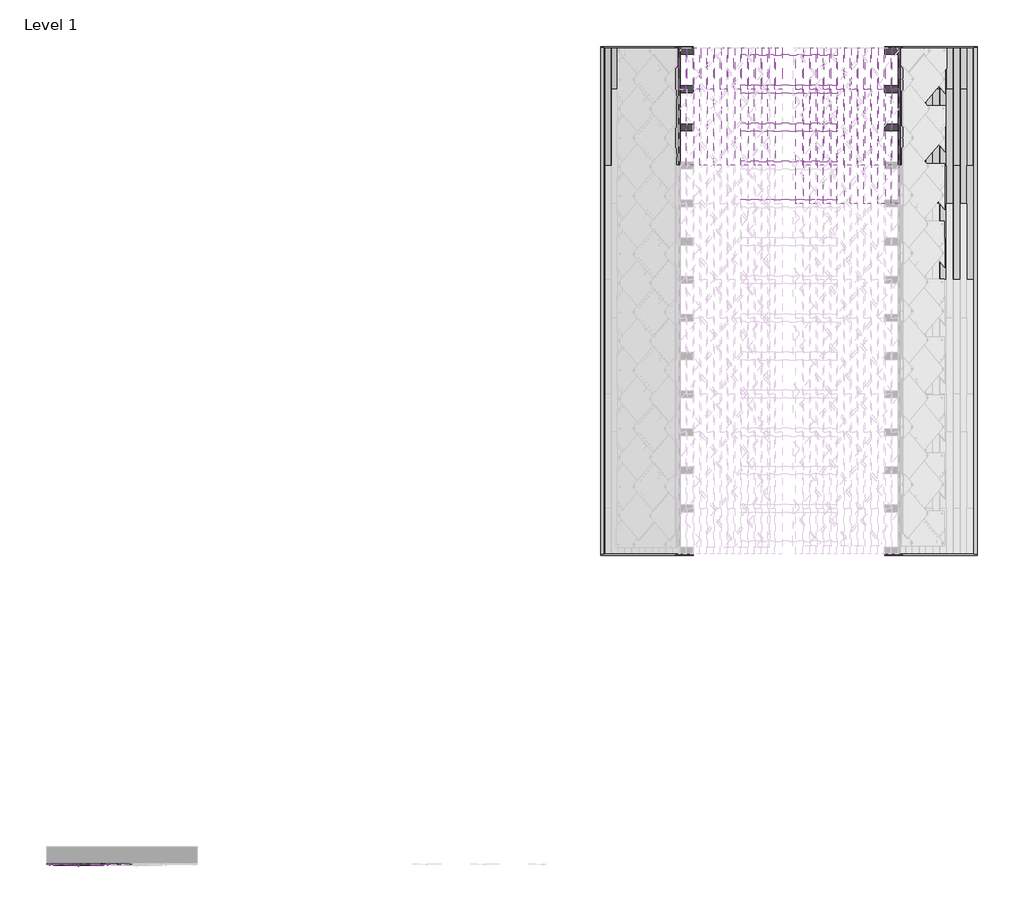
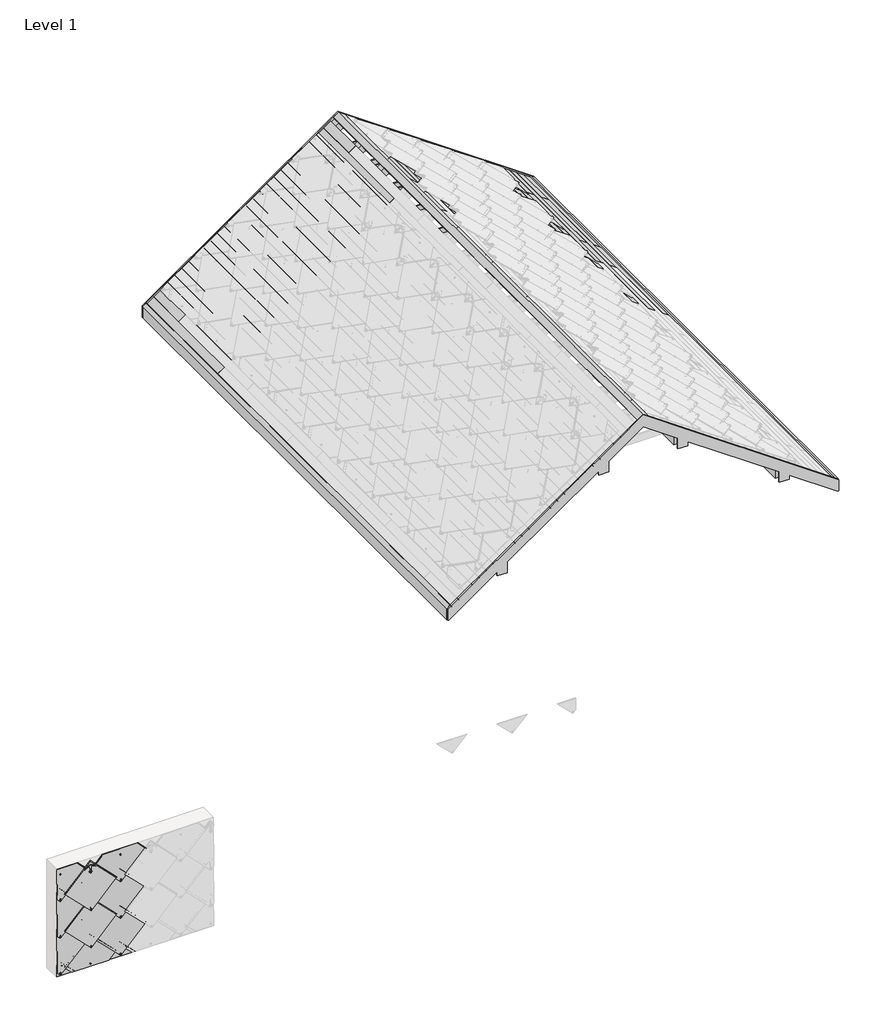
# One storey, part 3 of 6: 92 beams, 11 proxies.
"""IFC4 building model written with IfcOpenShell, lengths in millimetres."""

from ifc_helpers import new_model, si_unit, origin, place, context, project, spatial, transform, mapped, element, save
from components import structural_framing_1_structural_framing_1_4f4e03de, structural_framing_104_structural_framing_15_200a1adf, structural_framing_105_structural_framing_15_bbb8b2a2, structural_framing_150_structural_framing_15_f334a7cf, structural_framing_151_structural_framing_15_911aee75, structural_framing_152_structural_framing_15_fae30983, structural_framing_154_structural_framing_15_ddedf780, structural_framing_156_structural_framing_15_8572bb24, structural_framing_164_structural_framing_15_c8a2bcaa, structural_framing_155_structural_framing_15_fbad98d9, structural_framing_290_structural_framing_15_fb813978, structural_framing_291_structural_framing_15_41421fa0, structural_framing_293_structural_framing_15_7859e044, structural_framing_294_structural_framing_15_d6bc8154, structural_framing_295_structural_framing_295_6c3cb5e9, structural_framing_296_structural_framing_296_04115515, structural_framing_298_structural_framing_296_1c13a3da, structural_framing_321_structural_framing_321_04959c51, structural_framing_323_structural_framing_323_983c3ce1, structural_framing_324_structural_framing_323_6074106b, generic_models_2e27a9fd, corner_bottom_small_left_black_798ab3c3, corner_top_big_left_black_ba74b52e, roofing_panels_sunstyle_tile_non_pv_shingle_non_pv_shingle_be952c39, roofing_panels_sunstyle_tile_shingle_bottom_shingle_bottom_4eb983e8, roofing_panels_sunstyle_tile_shingle_bottom_small_shingle_761d3557, roofing_panels_sunstyle_tile_shingle_left_shingle_left_8a958c8d, roofing_panels_sunstyle_tile_shingle_top_shingle_top_black_4c6098d4

model = new_model("IFC4")

# Units and contexts
model_context = context("Model", 3, world=origin())
ifc_project = project(units=[si_unit("LENGTHUNIT", "METRE", prefix="MILLI")], contexts=[model_context])

# Site, building, storey
site = spatial("IfcSite", under=ifc_project)
building = spatial("IfcBuilding", under=site)
storey = spatial("IfcBuildingStorey", under=building, Name="Level 1", Elevation=0.0)

# Beams
placement = place(None, origin())
structural_framing_1_structural_framing_1_shape = structural_framing_1_structural_framing_1_4f4e03de(model_context)
element("IfcBeam", 1, ObjectType="Structural Framing 1 : Structural Framing 1", at=placement, inside=storey, context=model_context, shape_type="MappedRepresentation", body=[
    mapped(structural_framing_1_structural_framing_1_shape, transform((0.0, 0.0, 0.0), x_axis=(1.0, 0.0, 0.0), y_axis=(0.0, 1.0, 0.0), z_axis=(0.0, 0.0, 1.0))),
])
structural_framing_104_structural_framing_15_shape = structural_framing_104_structural_framing_15_200a1adf(model_context)
element("IfcBeam", 2, ObjectType="Structural Framing 104 : Structural Framing 15", at=placement, inside=storey, context=model_context, shape_type="MappedRepresentation", body=[
    mapped(structural_framing_104_structural_framing_15_shape, transform((-2427.8516115, 0.0, -1700.0), x_axis=(1.0, 0.0, 0.0), y_axis=(0.0, 1.0, 0.0), z_axis=(0.0, 0.0, 1.0))),
])
structural_framing_105_structural_framing_15_shape = structural_framing_105_structural_framing_15_bbb8b2a2(model_context)
element("IfcBeam", 3, ObjectType="Structural Framing 105 : Structural Framing 15", at=placement, inside=storey, context=model_context, shape_type="MappedRepresentation", body=[
    mapped(structural_framing_105_structural_framing_15_shape, transform((-2570.6664121, 0.0, -1800.0), x_axis=(1.0, 0.0, 0.0), y_axis=(0.0, 1.0, 0.0), z_axis=(0.0, 0.0, 1.0))),
])
element("IfcBeam", 4, ObjectType="Structural Framing 114 : Structural Framing 15", at=placement, inside=storey, context=model_context, shape_type="MappedRepresentation", body=[
    mapped(structural_framing_104_structural_framing_15_shape, transform((-2713.4812128, 0.0, -1900.0), x_axis=(1.0, 0.0, 0.0), y_axis=(0.0, 1.0, 0.0), z_axis=(0.0, 0.0, 1.0))),
])
element("IfcBeam", 5, ObjectType="Structural Framing 115 : Structural Framing 15", at=placement, inside=storey, context=model_context, shape_type="MappedRepresentation", body=[
    mapped(structural_framing_105_structural_framing_15_shape, transform((-2856.2960135, 0.0, -2000.0), x_axis=(1.0, 0.0, 0.0), y_axis=(0.0, 1.0, 0.0), z_axis=(0.0, 0.0, 1.0))),
])
element("IfcBeam", 6, ObjectType="Structural Framing 124 : Structural Framing 15", at=placement, inside=storey, context=model_context, shape_type="MappedRepresentation", body=[
    mapped(structural_framing_104_structural_framing_15_shape, transform((-2999.1108142, 0.0, -2100.0), x_axis=(1.0, 0.0, 0.0), y_axis=(0.0, 1.0, 0.0), z_axis=(0.0, 0.0, 1.0))),
])
element("IfcBeam", 7, ObjectType="Structural Framing 125 : Structural Framing 15", at=placement, inside=storey, context=model_context, shape_type="MappedRepresentation", body=[
    mapped(structural_framing_105_structural_framing_15_shape, transform((-3141.9256148, 0.0, -2200.0), x_axis=(1.0, 0.0, 0.0), y_axis=(0.0, 1.0, 0.0), z_axis=(0.0, 0.0, 1.0))),
])
element("IfcBeam", 8, ObjectType="Structural Framing 134 : Structural Framing 15", at=placement, inside=storey, context=model_context, shape_type="MappedRepresentation", body=[
    mapped(structural_framing_104_structural_framing_15_shape, transform((-3284.7404155, 0.0, -2300.0), x_axis=(1.0, 0.0, 0.0), y_axis=(0.0, 1.0, 0.0), z_axis=(0.0, 0.0, 1.0))),
])
element("IfcBeam", 9, ObjectType="Structural Framing 135 : Structural Framing 15", at=placement, inside=storey, context=model_context, shape_type="MappedRepresentation", body=[
    mapped(structural_framing_105_structural_framing_15_shape, transform((-3427.5552162, 0.0, -2400.0), x_axis=(1.0, 0.0, 0.0), y_axis=(0.0, 1.0, 0.0), z_axis=(0.0, 0.0, 1.0))),
])
element("IfcBeam", 10, ObjectType="Structural Framing 144 : Structural Framing 15", at=placement, inside=storey, context=model_context, shape_type="MappedRepresentation", body=[
    mapped(structural_framing_104_structural_framing_15_shape, transform((-3570.3700169, 0.0, -2500.0), x_axis=(1.0, 0.0, 0.0), y_axis=(0.0, 1.0, 0.0), z_axis=(0.0, 0.0, 1.0))),
])
element("IfcBeam", 11, ObjectType="Structural Framing 145 : Structural Framing 15", at=placement, inside=storey, context=model_context, shape_type="MappedRepresentation", body=[
    mapped(structural_framing_105_structural_framing_15_shape, transform((-3713.1848175, 0.0, -2600.0), x_axis=(1.0, 0.0, 0.0), y_axis=(0.0, 1.0, 0.0), z_axis=(0.0, 0.0, 1.0))),
])
structural_framing_150_structural_framing_15_shape = structural_framing_150_structural_framing_15_f334a7cf(model_context)
element("IfcBeam", 12, ObjectType="Structural Framing 150 : Structural Framing 15", at=placement, inside=storey, context=model_context, shape_type="MappedRepresentation", body=[
    mapped(structural_framing_150_structural_framing_15_shape, transform((0.0, 0.0, 0.0), x_axis=(1.0, 0.0, 0.0), y_axis=(0.0, 1.0, 0.0), z_axis=(0.0, 0.0, 1.0))),
])
structural_framing_151_structural_framing_15_shape = structural_framing_151_structural_framing_15_911aee75(model_context)
element("IfcBeam", 13, ObjectType="Structural Framing 151 : Structural Framing 15", at=placement, inside=storey, context=model_context, shape_type="MappedRepresentation", body=[
    mapped(structural_framing_151_structural_framing_15_shape, transform((0.0, 2367.5, 0.0), x_axis=(1.0, 0.0, 0.0), y_axis=(0.0, 1.0, 0.0), z_axis=(0.0, 0.0, 1.0))),
])
structural_framing_152_structural_framing_15_shape = structural_framing_152_structural_framing_15_fae30983(model_context)
element("IfcBeam", 14, ObjectType="Structural Framing 152 : Structural Framing 15", at=placement, inside=storey, context=model_context, shape_type="MappedRepresentation", body=[
    mapped(structural_framing_152_structural_framing_15_shape, transform((0.0, 4837.5, 0.0), x_axis=(1.0, 0.0, 0.0), y_axis=(0.0, 1.0, 0.0), z_axis=(0.0, 0.0, 1.0))),
])
element("IfcBeam", 15, ObjectType="Structural Framing 153 : Structural Framing 15", at=placement, inside=storey, context=model_context, shape_type="MappedRepresentation", body=[
    mapped(structural_framing_152_structural_framing_15_shape, transform((0.0, 7237.5, 0.0), x_axis=(1.0, 0.0, 0.0), y_axis=(0.0, 1.0, 0.0), z_axis=(0.0, 0.0, 1.0))),
])
structural_framing_154_structural_framing_15_shape = structural_framing_154_structural_framing_15_ddedf780(model_context)
element("IfcBeam", 16, ObjectType="Structural Framing 154 : Structural Framing 15", at=placement, inside=storey, context=model_context, shape_type="MappedRepresentation", body=[
    mapped(structural_framing_154_structural_framing_15_shape, transform((0.0, 9637.5, 0.0), x_axis=(1.0, 0.0, 0.0), y_axis=(0.0, 1.0, 0.0), z_axis=(0.0, 0.0, 1.0))),
])
structural_framing_156_structural_framing_15_shape = structural_framing_156_structural_framing_15_8572bb24(model_context)
element("IfcBeam", 17, ObjectType="Structural Framing 160 : Structural Framing 15", at=placement, inside=storey, context=model_context, shape_type="MappedRepresentation", body=[
    mapped(structural_framing_156_structural_framing_15_shape, transform((142.8148007, -870.0, -100.0), x_axis=(1.0, 0.0, 0.0), y_axis=(0.0, 1.0, 0.0), z_axis=(0.0, 0.0, 1.0))),
])
structural_framing_164_structural_framing_15_shape = structural_framing_164_structural_framing_15_c8a2bcaa(model_context)
element("IfcBeam", 18, ObjectType="Structural Framing 164 : Structural Framing 15", at=placement, inside=storey, context=model_context, shape_type="MappedRepresentation", body=[
    mapped(structural_framing_164_structural_framing_15_shape, transform((142.8148007, 0.0, -100.0), x_axis=(1.0, 0.0, 0.0), y_axis=(0.0, 1.0, 0.0), z_axis=(0.0, 0.0, 1.0))),
])
structural_framing_155_structural_framing_15_shape = structural_framing_155_structural_framing_15_fbad98d9(model_context)
element("IfcBeam", 19, ObjectType="Structural Framing 165 : Structural Framing 15", at=placement, inside=storey, context=model_context, shape_type="MappedRepresentation", body=[
    mapped(structural_framing_155_structural_framing_15_shape, transform((285.6296013, 0.0, -200.0), x_axis=(1.0, 0.0, 0.0), y_axis=(0.0, 1.0, 0.0), z_axis=(0.0, 0.0, 1.0))),
])
element("IfcBeam", 20, ObjectType="Structural Framing 170 : Structural Framing 15", at=placement, inside=storey, context=model_context, shape_type="MappedRepresentation", body=[
    mapped(structural_framing_156_structural_framing_15_shape, transform((428.444402, -870.0, -300.0), x_axis=(1.0, 0.0, 0.0), y_axis=(0.0, 1.0, 0.0), z_axis=(0.0, 0.0, 1.0))),
])
element("IfcBeam", 21, ObjectType="Structural Framing 174 : Structural Framing 15", at=placement, inside=storey, context=model_context, shape_type="MappedRepresentation", body=[
    mapped(structural_framing_164_structural_framing_15_shape, transform((428.444402, 0.0, -300.0), x_axis=(1.0, 0.0, 0.0), y_axis=(0.0, 1.0, 0.0), z_axis=(0.0, 0.0, 1.0))),
])
element("IfcBeam", 22, ObjectType="Structural Framing 175 : Structural Framing 15", at=placement, inside=storey, context=model_context, shape_type="MappedRepresentation", body=[
    mapped(structural_framing_155_structural_framing_15_shape, transform((571.2592027, 0.0, -400.0), x_axis=(1.0, 0.0, 0.0), y_axis=(0.0, 1.0, 0.0), z_axis=(0.0, 0.0, 1.0))),
])
element("IfcBeam", 23, ObjectType="Structural Framing 180 : Structural Framing 15", at=placement, inside=storey, context=model_context, shape_type="MappedRepresentation", body=[
    mapped(structural_framing_156_structural_framing_15_shape, transform((714.0740034, -870.0, -500.0), x_axis=(1.0, 0.0, 0.0), y_axis=(0.0, 1.0, 0.0), z_axis=(0.0, 0.0, 1.0))),
])
element("IfcBeam", 24, ObjectType="Structural Framing 184 : Structural Framing 15", at=placement, inside=storey, context=model_context, shape_type="MappedRepresentation", body=[
    mapped(structural_framing_164_structural_framing_15_shape, transform((714.0740034, 0.0, -500.0), x_axis=(1.0, 0.0, 0.0), y_axis=(0.0, 1.0, 0.0), z_axis=(0.0, 0.0, 1.0))),
])
element("IfcBeam", 25, ObjectType="Structural Framing 185 : Structural Framing 15", at=placement, inside=storey, context=model_context, shape_type="MappedRepresentation", body=[
    mapped(structural_framing_155_structural_framing_15_shape, transform((856.888804, 0.0, -600.0), x_axis=(1.0, 0.0, 0.0), y_axis=(0.0, 1.0, 0.0), z_axis=(0.0, 0.0, 1.0))),
])
element("IfcBeam", 26, ObjectType="Structural Framing 190 : Structural Framing 15", at=placement, inside=storey, context=model_context, shape_type="MappedRepresentation", body=[
    mapped(structural_framing_156_structural_framing_15_shape, transform((999.7036047, -870.0, -700.0), x_axis=(1.0, 0.0, 0.0), y_axis=(0.0, 1.0, 0.0), z_axis=(0.0, 0.0, 1.0))),
])
element("IfcBeam", 27, ObjectType="Structural Framing 194 : Structural Framing 15", at=placement, inside=storey, context=model_context, shape_type="MappedRepresentation", body=[
    mapped(structural_framing_164_structural_framing_15_shape, transform((999.7036047, 0.0, -700.0), x_axis=(1.0, 0.0, 0.0), y_axis=(0.0, 1.0, 0.0), z_axis=(0.0, 0.0, 1.0))),
])
element("IfcBeam", 28, ObjectType="Structural Framing 195 : Structural Framing 15", at=placement, inside=storey, context=model_context, shape_type="MappedRepresentation", body=[
    mapped(structural_framing_155_structural_framing_15_shape, transform((1142.5184054, 0.0, -800.0), x_axis=(1.0, 0.0, 0.0), y_axis=(0.0, 1.0, 0.0), z_axis=(0.0, 0.0, 1.0))),
])
element("IfcBeam", 29, ObjectType="Structural Framing 2 : Structural Framing 1", at=placement, inside=storey, context=model_context, shape_type="MappedRepresentation", body=[
    mapped(structural_framing_1_structural_framing_1_shape, transform((0.0, -800.0, 0.0), x_axis=(1.0, 0.0, 0.0), y_axis=(0.0, 1.0, 0.0), z_axis=(0.0, 0.0, 1.0))),
])
element("IfcBeam", 30, ObjectType="Structural Framing 200 : Structural Framing 15", at=placement, inside=storey, context=model_context, shape_type="MappedRepresentation", body=[
    mapped(structural_framing_156_structural_framing_15_shape, transform((1285.3332061, -870.0, -900.0), x_axis=(1.0, 0.0, 0.0), y_axis=(0.0, 1.0, 0.0), z_axis=(0.0, 0.0, 1.0))),
])
element("IfcBeam", 31, ObjectType="Structural Framing 204 : Structural Framing 15", at=placement, inside=storey, context=model_context, shape_type="MappedRepresentation", body=[
    mapped(structural_framing_164_structural_framing_15_shape, transform((1285.3332061, 0.0, -900.0), x_axis=(1.0, 0.0, 0.0), y_axis=(0.0, 1.0, 0.0), z_axis=(0.0, 0.0, 1.0))),
])
element("IfcBeam", 32, ObjectType="Structural Framing 205 : Structural Framing 15", at=placement, inside=storey, context=model_context, shape_type="MappedRepresentation", body=[
    mapped(structural_framing_155_structural_framing_15_shape, transform((1428.1480067, 0.0, -1000.0), x_axis=(1.0, 0.0, 0.0), y_axis=(0.0, 1.0, 0.0), z_axis=(0.0, 0.0, 1.0))),
])
element("IfcBeam", 33, ObjectType="Structural Framing 210 : Structural Framing 15", at=placement, inside=storey, context=model_context, shape_type="MappedRepresentation", body=[
    mapped(structural_framing_156_structural_framing_15_shape, transform((1570.9628074, -870.0, -1100.0), x_axis=(1.0, 0.0, 0.0), y_axis=(0.0, 1.0, 0.0), z_axis=(0.0, 0.0, 1.0))),
])
element("IfcBeam", 34, ObjectType="Structural Framing 214 : Structural Framing 15", at=placement, inside=storey, context=model_context, shape_type="MappedRepresentation", body=[
    mapped(structural_framing_164_structural_framing_15_shape, transform((1570.9628074, 0.0, -1100.0), x_axis=(1.0, 0.0, 0.0), y_axis=(0.0, 1.0, 0.0), z_axis=(0.0, 0.0, 1.0))),
])
element("IfcBeam", 35, ObjectType="Structural Framing 215 : Structural Framing 15", at=placement, inside=storey, context=model_context, shape_type="MappedRepresentation", body=[
    mapped(structural_framing_155_structural_framing_15_shape, transform((1713.7776081, 0.0, -1200.0), x_axis=(1.0, 0.0, 0.0), y_axis=(0.0, 1.0, 0.0), z_axis=(0.0, 0.0, 1.0))),
])
element("IfcBeam", 36, ObjectType="Structural Framing 220 : Structural Framing 15", at=placement, inside=storey, context=model_context, shape_type="MappedRepresentation", body=[
    mapped(structural_framing_156_structural_framing_15_shape, transform((1856.5924088, -870.0, -1300.0), x_axis=(1.0, 0.0, 0.0), y_axis=(0.0, 1.0, 0.0), z_axis=(0.0, 0.0, 1.0))),
])
element("IfcBeam", 37, ObjectType="Structural Framing 224 : Structural Framing 15", at=placement, inside=storey, context=model_context, shape_type="MappedRepresentation", body=[
    mapped(structural_framing_164_structural_framing_15_shape, transform((1856.5924088, 0.0, -1300.0), x_axis=(1.0, 0.0, 0.0), y_axis=(0.0, 1.0, 0.0), z_axis=(0.0, 0.0, 1.0))),
])
element("IfcBeam", 38, ObjectType="Structural Framing 225 : Structural Framing 15", at=placement, inside=storey, context=model_context, shape_type="MappedRepresentation", body=[
    mapped(structural_framing_155_structural_framing_15_shape, transform((1999.4072094, 0.0, -1400.0), x_axis=(1.0, 0.0, 0.0), y_axis=(0.0, 1.0, 0.0), z_axis=(0.0, 0.0, 1.0))),
])
element("IfcBeam", 39, ObjectType="Structural Framing 230 : Structural Framing 15", at=placement, inside=storey, context=model_context, shape_type="MappedRepresentation", body=[
    mapped(structural_framing_156_structural_framing_15_shape, transform((2142.2220101, -870.0, -1500.0), x_axis=(1.0, 0.0, 0.0), y_axis=(0.0, 1.0, 0.0), z_axis=(0.0, 0.0, 1.0))),
])
element("IfcBeam", 40, ObjectType="Structural Framing 234 : Structural Framing 15", at=placement, inside=storey, context=model_context, shape_type="MappedRepresentation", body=[
    mapped(structural_framing_164_structural_framing_15_shape, transform((2142.2220101, 0.0, -1500.0), x_axis=(1.0, 0.0, 0.0), y_axis=(0.0, 1.0, 0.0), z_axis=(0.0, 0.0, 1.0))),
])
element("IfcBeam", 41, ObjectType="Structural Framing 235 : Structural Framing 15", at=placement, inside=storey, context=model_context, shape_type="MappedRepresentation", body=[
    mapped(structural_framing_155_structural_framing_15_shape, transform((2285.0368108, 0.0, -1600.0), x_axis=(1.0, 0.0, 0.0), y_axis=(0.0, 1.0, 0.0), z_axis=(0.0, 0.0, 1.0))),
])
element("IfcBeam", 42, ObjectType="Structural Framing 24 : Structural Framing 15", at=placement, inside=storey, context=model_context, shape_type="MappedRepresentation", body=[
    mapped(structural_framing_104_structural_framing_15_shape, transform((-142.8148007, 0.0, -100.0), x_axis=(1.0, 0.0, 0.0), y_axis=(0.0, 1.0, 0.0), z_axis=(0.0, 0.0, 1.0))),
])
element("IfcBeam", 43, ObjectType="Structural Framing 240 : Structural Framing 15", at=placement, inside=storey, context=model_context, shape_type="MappedRepresentation", body=[
    mapped(structural_framing_156_structural_framing_15_shape, transform((2427.8516115, -870.0, -1700.0), x_axis=(1.0, 0.0, 0.0), y_axis=(0.0, 1.0, 0.0), z_axis=(0.0, 0.0, 1.0))),
])
element("IfcBeam", 44, ObjectType="Structural Framing 244 : Structural Framing 15", at=placement, inside=storey, context=model_context, shape_type="MappedRepresentation", body=[
    mapped(structural_framing_164_structural_framing_15_shape, transform((2427.8516115, 0.0, -1700.0), x_axis=(1.0, 0.0, 0.0), y_axis=(0.0, 1.0, 0.0), z_axis=(0.0, 0.0, 1.0))),
])
element("IfcBeam", 45, ObjectType="Structural Framing 245 : Structural Framing 15", at=placement, inside=storey, context=model_context, shape_type="MappedRepresentation", body=[
    mapped(structural_framing_155_structural_framing_15_shape, transform((2570.6664121, 0.0, -1800.0), x_axis=(1.0, 0.0, 0.0), y_axis=(0.0, 1.0, 0.0), z_axis=(0.0, 0.0, 1.0))),
])
element("IfcBeam", 46, ObjectType="Structural Framing 25 : Structural Framing 15", at=placement, inside=storey, context=model_context, shape_type="MappedRepresentation", body=[
    mapped(structural_framing_105_structural_framing_15_shape, transform((-285.6296013, 0.0, -200.0), x_axis=(1.0, 0.0, 0.0), y_axis=(0.0, 1.0, 0.0), z_axis=(0.0, 0.0, 1.0))),
])
element("IfcBeam", 47, ObjectType="Structural Framing 250 : Structural Framing 15", at=placement, inside=storey, context=model_context, shape_type="MappedRepresentation", body=[
    mapped(structural_framing_156_structural_framing_15_shape, transform((2713.4812128, -870.0, -1900.0), x_axis=(1.0, 0.0, 0.0), y_axis=(0.0, 1.0, 0.0), z_axis=(0.0, 0.0, 1.0))),
])
element("IfcBeam", 48, ObjectType="Structural Framing 254 : Structural Framing 15", at=placement, inside=storey, context=model_context, shape_type="MappedRepresentation", body=[
    mapped(structural_framing_164_structural_framing_15_shape, transform((2713.4812128, 0.0, -1900.0), x_axis=(1.0, 0.0, 0.0), y_axis=(0.0, 1.0, 0.0), z_axis=(0.0, 0.0, 1.0))),
])
element("IfcBeam", 49, ObjectType="Structural Framing 255 : Structural Framing 15", at=placement, inside=storey, context=model_context, shape_type="MappedRepresentation", body=[
    mapped(structural_framing_155_structural_framing_15_shape, transform((2856.2960135, 0.0, -2000.0), x_axis=(1.0, 0.0, 0.0), y_axis=(0.0, 1.0, 0.0), z_axis=(0.0, 0.0, 1.0))),
])
element("IfcBeam", 50, ObjectType="Structural Framing 260 : Structural Framing 15", at=placement, inside=storey, context=model_context, shape_type="MappedRepresentation", body=[
    mapped(structural_framing_156_structural_framing_15_shape, transform((2999.1108142, -870.0, -2100.0), x_axis=(1.0, 0.0, 0.0), y_axis=(0.0, 1.0, 0.0), z_axis=(0.0, 0.0, 1.0))),
])
element("IfcBeam", 51, ObjectType="Structural Framing 264 : Structural Framing 15", at=placement, inside=storey, context=model_context, shape_type="MappedRepresentation", body=[
    mapped(structural_framing_164_structural_framing_15_shape, transform((2999.1108142, 0.0, -2100.0), x_axis=(1.0, 0.0, 0.0), y_axis=(0.0, 1.0, 0.0), z_axis=(0.0, 0.0, 1.0))),
])
element("IfcBeam", 52, ObjectType="Structural Framing 265 : Structural Framing 15", at=placement, inside=storey, context=model_context, shape_type="MappedRepresentation", body=[
    mapped(structural_framing_155_structural_framing_15_shape, transform((3141.9256148, 0.0, -2200.0), x_axis=(1.0, 0.0, 0.0), y_axis=(0.0, 1.0, 0.0), z_axis=(0.0, 0.0, 1.0))),
])
element("IfcBeam", 53, ObjectType="Structural Framing 266 : Structural Framing 15", at=placement, inside=storey, context=model_context, shape_type="MappedRepresentation", body=[
    mapped(structural_framing_156_structural_framing_15_shape, transform((3141.9256148, -2470.0, -2200.0), x_axis=(1.0, 0.0, 0.0), y_axis=(0.0, 1.0, 0.0), z_axis=(0.0, 0.0, 1.0))),
])
element("IfcBeam", 54, ObjectType="Structural Framing 270 : Structural Framing 15", at=placement, inside=storey, context=model_context, shape_type="MappedRepresentation", body=[
    mapped(structural_framing_156_structural_framing_15_shape, transform((3284.7404155, -870.0, -2300.0), x_axis=(1.0, 0.0, 0.0), y_axis=(0.0, 1.0, 0.0), z_axis=(0.0, 0.0, 1.0))),
])
element("IfcBeam", 55, ObjectType="Structural Framing 274 : Structural Framing 15", at=placement, inside=storey, context=model_context, shape_type="MappedRepresentation", body=[
    mapped(structural_framing_164_structural_framing_15_shape, transform((3284.7404155, 0.0, -2300.0), x_axis=(1.0, 0.0, 0.0), y_axis=(0.0, 1.0, 0.0), z_axis=(0.0, 0.0, 1.0))),
])
element("IfcBeam", 56, ObjectType="Structural Framing 275 : Structural Framing 15", at=placement, inside=storey, context=model_context, shape_type="MappedRepresentation", body=[
    mapped(structural_framing_155_structural_framing_15_shape, transform((3427.5552162, 0.0, -2400.0), x_axis=(1.0, 0.0, 0.0), y_axis=(0.0, 1.0, 0.0), z_axis=(0.0, 0.0, 1.0))),
])
element("IfcBeam", 57, ObjectType="Structural Framing 276 : Structural Framing 15", at=placement, inside=storey, context=model_context, shape_type="MappedRepresentation", body=[
    mapped(structural_framing_156_structural_framing_15_shape, transform((3427.5552162, -2470.0, -2400.0), x_axis=(1.0, 0.0, 0.0), y_axis=(0.0, 1.0, 0.0), z_axis=(0.0, 0.0, 1.0))),
])
element("IfcBeam", 58, ObjectType="Structural Framing 280 : Structural Framing 15", at=placement, inside=storey, context=model_context, shape_type="MappedRepresentation", body=[
    mapped(structural_framing_156_structural_framing_15_shape, transform((3570.3700169, -870.0, -2500.0), x_axis=(1.0, 0.0, 0.0), y_axis=(0.0, 1.0, 0.0), z_axis=(0.0, 0.0, 1.0))),
])
element("IfcBeam", 59, ObjectType="Structural Framing 284 : Structural Framing 15", at=placement, inside=storey, context=model_context, shape_type="MappedRepresentation", body=[
    mapped(structural_framing_164_structural_framing_15_shape, transform((3570.3700169, 0.0, -2500.0), x_axis=(1.0, 0.0, 0.0), y_axis=(0.0, 1.0, 0.0), z_axis=(0.0, 0.0, 1.0))),
])
element("IfcBeam", 60, ObjectType="Structural Framing 285 : Structural Framing 15", at=placement, inside=storey, context=model_context, shape_type="MappedRepresentation", body=[
    mapped(structural_framing_155_structural_framing_15_shape, transform((3713.1848175, 0.0, -2600.0), x_axis=(1.0, 0.0, 0.0), y_axis=(0.0, 1.0, 0.0), z_axis=(0.0, 0.0, 1.0))),
])
element("IfcBeam", 61, ObjectType="Structural Framing 286 : Structural Framing 15", at=placement, inside=storey, context=model_context, shape_type="MappedRepresentation", body=[
    mapped(structural_framing_156_structural_framing_15_shape, transform((3713.1848175, -2470.0, -2600.0), x_axis=(1.0, 0.0, 0.0), y_axis=(0.0, 1.0, 0.0), z_axis=(0.0, 0.0, 1.0))),
])
structural_framing_290_structural_framing_15_shape = structural_framing_290_structural_framing_15_fb813978(model_context)
element("IfcBeam", 62, ObjectType="Structural Framing 290 : Structural Framing 15", at=placement, inside=storey, context=model_context, shape_type="MappedRepresentation", body=[
    mapped(structural_framing_290_structural_framing_15_shape, transform((0.0, 2367.5, 0.0), x_axis=(1.0, 0.0, 0.0), y_axis=(0.0, 1.0, 0.0), z_axis=(0.0, 0.0, 1.0))),
])
structural_framing_291_structural_framing_15_shape = structural_framing_291_structural_framing_15_41421fa0(model_context)
element("IfcBeam", 63, ObjectType="Structural Framing 291 : Structural Framing 15", at=placement, inside=storey, context=model_context, shape_type="MappedRepresentation", body=[
    mapped(structural_framing_291_structural_framing_15_shape, transform((0.0, 4837.5, 0.0), x_axis=(1.0, 0.0, 0.0), y_axis=(0.0, 1.0, 0.0), z_axis=(0.0, 0.0, 1.0))),
])
element("IfcBeam", 64, ObjectType="Structural Framing 292 : Structural Framing 15", at=placement, inside=storey, context=model_context, shape_type="MappedRepresentation", body=[
    mapped(structural_framing_291_structural_framing_15_shape, transform((0.0, 7237.5, 0.0), x_axis=(1.0, 0.0, 0.0), y_axis=(0.0, 1.0, 0.0), z_axis=(0.0, 0.0, 1.0))),
])
structural_framing_293_structural_framing_15_shape = structural_framing_293_structural_framing_15_7859e044(model_context)
element("IfcBeam", 65, ObjectType="Structural Framing 293 : Structural Framing 15", at=placement, inside=storey, context=model_context, shape_type="MappedRepresentation", body=[
    mapped(structural_framing_293_structural_framing_15_shape, transform((0.0, 0.0, 0.0), x_axis=(1.0, 0.0, 0.0), y_axis=(0.0, 1.0, 0.0), z_axis=(0.0, 0.0, 1.0))),
])
structural_framing_294_structural_framing_15_shape = structural_framing_294_structural_framing_15_d6bc8154(model_context)
element("IfcBeam", 66, ObjectType="Structural Framing 294 : Structural Framing 15", at=placement, inside=storey, context=model_context, shape_type="MappedRepresentation", body=[
    mapped(structural_framing_294_structural_framing_15_shape, transform((0.0, 9637.5, 0.0), x_axis=(1.0, 0.0, 0.0), y_axis=(0.0, 1.0, 0.0), z_axis=(0.0, 0.0, 1.0))),
])
structural_framing_295_structural_framing_295_shape = structural_framing_295_structural_framing_295_6c3cb5e9(model_context)
element("IfcBeam", 67, ObjectType="Structural Framing 295 : Structural Framing 295", at=placement, inside=storey, context=model_context, shape_type="MappedRepresentation", body=[
    mapped(structural_framing_295_structural_framing_295_shape, transform((0.0, 0.0, 0.0), x_axis=(1.0, 0.0, 0.0), y_axis=(0.0, 1.0, 0.0), z_axis=(0.0, 0.0, 1.0))),
])
structural_framing_296_structural_framing_296_shape = structural_framing_296_structural_framing_296_04115515(model_context)
element("IfcBeam", 68, ObjectType="Structural Framing 296 : Structural Framing 296", at=placement, inside=storey, context=model_context, shape_type="MappedRepresentation", body=[
    mapped(structural_framing_296_structural_framing_296_shape, transform((0.0, 0.0, 0.0), x_axis=(1.0, 0.0, 0.0), y_axis=(0.0, 1.0, 0.0), z_axis=(0.0, 0.0, 1.0))),
])
element("IfcBeam", 69, ObjectType="Structural Framing 297 : Structural Framing 296", at=placement, inside=storey, context=model_context, shape_type="MappedRepresentation", body=[
    mapped(structural_framing_296_structural_framing_296_shape, transform((0.0, -800.0, 0.0), x_axis=(1.0, 0.0, 0.0), y_axis=(0.0, 1.0, 0.0), z_axis=(0.0, 0.0, 1.0))),
])
structural_framing_298_structural_framing_296_shape = structural_framing_298_structural_framing_296_1c13a3da(model_context)
element("IfcBeam", 70, ObjectType="Structural Framing 298 : Structural Framing 296", at=placement, inside=storey, context=model_context, shape_type="MappedRepresentation", body=[
    mapped(structural_framing_298_structural_framing_296_shape, transform((0.0, 800.0, 0.0), x_axis=(1.0, 0.0, 0.0), y_axis=(0.0, 1.0, 0.0), z_axis=(0.0, 0.0, 1.0))),
])
element("IfcBeam", 71, ObjectType="Structural Framing 299 : Structural Framing 296", at=placement, inside=storey, context=model_context, shape_type="MappedRepresentation", body=[
    mapped(structural_framing_296_structural_framing_296_shape, transform((0.0, -1600.0, 0.0), x_axis=(1.0, 0.0, 0.0), y_axis=(0.0, 1.0, 0.0), z_axis=(0.0, 0.0, 1.0))),
])
element("IfcBeam", 72, ObjectType="Structural Framing 3 : Structural Framing 1", at=placement, inside=storey, context=model_context, shape_type="MappedRepresentation", body=[
    mapped(structural_framing_1_structural_framing_1_shape, transform((0.0, -1600.0, 0.0), x_axis=(1.0, 0.0, 0.0), y_axis=(0.0, 1.0, 0.0), z_axis=(0.0, 0.0, 1.0))),
])
element("IfcBeam", 73, ObjectType="Structural Framing 300 : Structural Framing 296", at=placement, inside=storey, context=model_context, shape_type="MappedRepresentation", body=[
    mapped(structural_framing_298_structural_framing_296_shape, transform((0.0, 0.0, 0.0), x_axis=(1.0, 0.0, 0.0), y_axis=(0.0, 1.0, 0.0), z_axis=(0.0, 0.0, 1.0))),
])
element("IfcBeam", 74, ObjectType="Structural Framing 302 : Structural Framing 296", at=placement, inside=storey, context=model_context, shape_type="MappedRepresentation", body=[
    mapped(structural_framing_298_structural_framing_296_shape, transform((0.0, -800.0, 0.0), x_axis=(1.0, 0.0, 0.0), y_axis=(0.0, 1.0, 0.0), z_axis=(0.0, 0.0, 1.0))),
])
element("IfcBeam", 75, ObjectType="Structural Framing 304 : Structural Framing 296", at=placement, inside=storey, context=model_context, shape_type="MappedRepresentation", body=[
    mapped(structural_framing_298_structural_framing_296_shape, transform((0.0, -1600.0, 0.0), x_axis=(1.0, 0.0, 0.0), y_axis=(0.0, 1.0, 0.0), z_axis=(0.0, 0.0, 1.0))),
])
structural_framing_321_structural_framing_321_shape = structural_framing_321_structural_framing_321_04959c51(model_context)
element("IfcBeam", 76, ObjectType="Structural Framing 321 : Structural Framing 321", at=placement, inside=storey, context=model_context, shape_type="MappedRepresentation", body=[
    mapped(structural_framing_321_structural_framing_321_shape, transform((0.0, 0.0, 0.0), x_axis=(1.0, 0.0, 0.0), y_axis=(0.0, 1.0, 0.0), z_axis=(0.0, 0.0, 1.0))),
])
structural_framing_323_structural_framing_323_shape = structural_framing_323_structural_framing_323_983c3ce1(model_context)
element("IfcBeam", 77, ObjectType="Structural Framing 323 : Structural Framing 323", at=placement, inside=storey, context=model_context, shape_type="MappedRepresentation", body=[
    mapped(structural_framing_323_structural_framing_323_shape, transform((0.0, 0.0, 0.0), x_axis=(1.0, 0.0, 0.0), y_axis=(0.0, 1.0, 0.0), z_axis=(0.0, 0.0, 1.0))),
])
structural_framing_324_structural_framing_323_shape = structural_framing_324_structural_framing_323_6074106b(model_context)
element("IfcBeam", 78, ObjectType="Structural Framing 324 : Structural Framing 323", at=placement, inside=storey, context=model_context, shape_type="MappedRepresentation", body=[
    mapped(structural_framing_324_structural_framing_323_shape, transform((0.0, 0.0, 0.0), x_axis=(1.0, 0.0, 0.0), y_axis=(0.0, 1.0, 0.0), z_axis=(0.0, 0.0, 1.0))),
])
element("IfcBeam", 79, ObjectType="Structural Framing 34 : Structural Framing 15", at=placement, inside=storey, context=model_context, shape_type="MappedRepresentation", body=[
    mapped(structural_framing_104_structural_framing_15_shape, transform((-428.444402, 0.0, -300.0), x_axis=(1.0, 0.0, 0.0), y_axis=(0.0, 1.0, 0.0), z_axis=(0.0, 0.0, 1.0))),
])
element("IfcBeam", 80, ObjectType="Structural Framing 35 : Structural Framing 15", at=placement, inside=storey, context=model_context, shape_type="MappedRepresentation", body=[
    mapped(structural_framing_105_structural_framing_15_shape, transform((-571.2592027, 0.0, -400.0), x_axis=(1.0, 0.0, 0.0), y_axis=(0.0, 1.0, 0.0), z_axis=(0.0, 0.0, 1.0))),
])
element("IfcBeam", 81, ObjectType="Structural Framing 44 : Structural Framing 15", at=placement, inside=storey, context=model_context, shape_type="MappedRepresentation", body=[
    mapped(structural_framing_104_structural_framing_15_shape, transform((-714.0740034, 0.0, -500.0), x_axis=(1.0, 0.0, 0.0), y_axis=(0.0, 1.0, 0.0), z_axis=(0.0, 0.0, 1.0))),
])
element("IfcBeam", 82, ObjectType="Structural Framing 45 : Structural Framing 15", at=placement, inside=storey, context=model_context, shape_type="MappedRepresentation", body=[
    mapped(structural_framing_105_structural_framing_15_shape, transform((-856.888804, 0.0, -600.0), x_axis=(1.0, 0.0, 0.0), y_axis=(0.0, 1.0, 0.0), z_axis=(0.0, 0.0, 1.0))),
])
element("IfcBeam", 83, ObjectType="Structural Framing 54 : Structural Framing 15", at=placement, inside=storey, context=model_context, shape_type="MappedRepresentation", body=[
    mapped(structural_framing_104_structural_framing_15_shape, transform((-999.7036047, 0.0, -700.0), x_axis=(1.0, 0.0, 0.0), y_axis=(0.0, 1.0, 0.0), z_axis=(0.0, 0.0, 1.0))),
])
element("IfcBeam", 84, ObjectType="Structural Framing 55 : Structural Framing 15", at=placement, inside=storey, context=model_context, shape_type="MappedRepresentation", body=[
    mapped(structural_framing_105_structural_framing_15_shape, transform((-1142.5184054, 0.0, -800.0), x_axis=(1.0, 0.0, 0.0), y_axis=(0.0, 1.0, 0.0), z_axis=(0.0, 0.0, 1.0))),
])
element("IfcBeam", 85, ObjectType="Structural Framing 64 : Structural Framing 15", at=placement, inside=storey, context=model_context, shape_type="MappedRepresentation", body=[
    mapped(structural_framing_104_structural_framing_15_shape, transform((-1285.3332061, 0.0, -900.0), x_axis=(1.0, 0.0, 0.0), y_axis=(0.0, 1.0, 0.0), z_axis=(0.0, 0.0, 1.0))),
])
element("IfcBeam", 86, ObjectType="Structural Framing 65 : Structural Framing 15", at=placement, inside=storey, context=model_context, shape_type="MappedRepresentation", body=[
    mapped(structural_framing_105_structural_framing_15_shape, transform((-1428.1480067, 0.0, -1000.0), x_axis=(1.0, 0.0, 0.0), y_axis=(0.0, 1.0, 0.0), z_axis=(0.0, 0.0, 1.0))),
])
element("IfcBeam", 87, ObjectType="Structural Framing 74 : Structural Framing 15", at=placement, inside=storey, context=model_context, shape_type="MappedRepresentation", body=[
    mapped(structural_framing_104_structural_framing_15_shape, transform((-1570.9628074, 0.0, -1100.0), x_axis=(1.0, 0.0, 0.0), y_axis=(0.0, 1.0, 0.0), z_axis=(0.0, 0.0, 1.0))),
])
element("IfcBeam", 88, ObjectType="Structural Framing 75 : Structural Framing 15", at=placement, inside=storey, context=model_context, shape_type="MappedRepresentation", body=[
    mapped(structural_framing_105_structural_framing_15_shape, transform((-1713.7776081, 0.0, -1200.0), x_axis=(1.0, 0.0, 0.0), y_axis=(0.0, 1.0, 0.0), z_axis=(0.0, 0.0, 1.0))),
])
element("IfcBeam", 89, ObjectType="Structural Framing 84 : Structural Framing 15", at=placement, inside=storey, context=model_context, shape_type="MappedRepresentation", body=[
    mapped(structural_framing_104_structural_framing_15_shape, transform((-1856.5924088, 0.0, -1300.0), x_axis=(1.0, 0.0, 0.0), y_axis=(0.0, 1.0, 0.0), z_axis=(0.0, 0.0, 1.0))),
])
element("IfcBeam", 90, ObjectType="Structural Framing 85 : Structural Framing 15", at=placement, inside=storey, context=model_context, shape_type="MappedRepresentation", body=[
    mapped(structural_framing_105_structural_framing_15_shape, transform((-1999.4072094, 0.0, -1400.0), x_axis=(1.0, 0.0, 0.0), y_axis=(0.0, 1.0, 0.0), z_axis=(0.0, 0.0, 1.0))),
])
element("IfcBeam", 91, ObjectType="Structural Framing 94 : Structural Framing 15", at=placement, inside=storey, context=model_context, shape_type="MappedRepresentation", body=[
    mapped(structural_framing_104_structural_framing_15_shape, transform((-2142.2220101, 0.0, -1500.0), x_axis=(1.0, 0.0, 0.0), y_axis=(0.0, 1.0, 0.0), z_axis=(0.0, 0.0, 1.0))),
])
element("IfcBeam", 92, ObjectType="Structural Framing 95 : Structural Framing 15", at=placement, inside=storey, context=model_context, shape_type="MappedRepresentation", body=[
    mapped(structural_framing_105_structural_framing_15_shape, transform((-2285.0368108, 0.0, -1600.0), x_axis=(1.0, 0.0, 0.0), y_axis=(0.0, 1.0, 0.0), z_axis=(0.0, 0.0, 1.0))),
])

# Proxies
generic_models_shape = generic_models_2e27a9fd(model_context)
element("IfcBuildingElementProxy", 93, Name="Roofing_Solar-Panels_SunStyle_Shingle-Sunstyle : Shingle-Sunstyle - Terracotta", ObjectType="Roofing_Solar-Panels_SunStyle_Shingle-Sunstyle : Shingle-Sunstyle - Terracotta", at=placement, inside=storey, context=model_context, shape_type="MappedRepresentation", body=[
    mapped(generic_models_shape, transform((-13697.4435668, -13191.8736519, 1971.6947998), x_axis=(1.0, 0.0, 0.0), y_axis=(0.0, 0.0, 1.0), z_axis=(0.0, -1.0, 0.0))),
])
element("IfcBuildingElementProxy", 94, Name="Roofing_Solar-Panels_SunStyle_Shingle-Sunstyle : Shingle-Sunstyle - Terracotta", ObjectType="Roofing_Solar-Panels_SunStyle_Shingle-Sunstyle : Shingle-Sunstyle - Terracotta", at=placement, inside=storey, context=model_context, shape_type="MappedRepresentation", body=[
    mapped(generic_models_shape, transform((-13697.4435668, -13191.8736519, 1183.6308768), x_axis=(1.0, 0.0, 0.0), y_axis=(0.0, 0.0, 1.0), z_axis=(0.0, -1.0, 0.0))),
])
corner_bottom_small_left_black_shape = corner_bottom_small_left_black_798ab3c3(model_context)
element("IfcBuildingElementProxy", 95, Name="Roofing_Panels_SunStyle_Tile_Corner-Bottom-Small-Left : Corner Bottom Small Left - Terracotta", ObjectType="Roofing_Panels_SunStyle_Tile_Corner-Bottom-Small-Left : Corner Bottom Small Left - Terracotta", at=placement, inside=storey, context=model_context, shape_type="MappedRepresentation", body=[
    mapped(corner_bottom_small_left_black_shape, transform((-14307.7909552, -13191.8736519, -67.0218954), x_axis=(1.0, 0.0, 0.0), y_axis=(0.0, 0.0, 1.0), z_axis=(0.0, -1.0, 0.0))),
])
corner_top_big_left_black_shape = corner_top_big_left_black_ba74b52e(model_context)
element("IfcBuildingElementProxy", 96, Name="Roofing_Panels_SunStyle_Tile_Corner-Top-Big-Left : Corner Top Big Left - Terracotta", ObjectType="Roofing_Panels_SunStyle_Tile_Corner-Top-Big-Left : Corner Top Big Left - Terracotta", at=placement, inside=storey, context=model_context, shape_type="MappedRepresentation", body=[
    mapped(corner_top_big_left_black_shape, transform((-14307.7909552, -13191.8736519, 2456.5475767), x_axis=(1.0, 0.0, 0.0), y_axis=(0.0, 0.0, 1.0), z_axis=(0.0, -1.0, 0.0))),
])
roofing_panels_sunstyle_tile_non_pv_shingle_non_pv_shingle_shape = roofing_panels_sunstyle_tile_non_pv_shingle_non_pv_shingle_be952c39(model_context)
element("IfcBuildingElementProxy", 97, Name="Roofing_Panels_SunStyle_Tile_Non-PV-Shingle : Non PV Shingle - Terracotta", ObjectType="Roofing_Panels_SunStyle_Tile_Non-PV-Shingle : Non PV Shingle - Terracotta", at=placement, inside=storey, context=model_context, shape_type="MappedRepresentation", body=[
    mapped(roofing_panels_sunstyle_tile_non_pv_shingle_non_pv_shingle_shape, transform((-13091.5238229, -13191.8736519, 1581.2267543), x_axis=(1.0, 0.0, 0.0), y_axis=(0.0, 0.0, 1.0), z_axis=(0.0, -1.0, 0.0))),
])
element("IfcBuildingElementProxy", 98, Name="Roofing_Panels_SunStyle_Tile_Non-PV-Shingle : Non PV Shingle - Terracotta", ObjectType="Roofing_Panels_SunStyle_Tile_Non-PV-Shingle : Non PV Shingle - Terracotta", at=placement, inside=storey, context=model_context, shape_type="MappedRepresentation", body=[
    mapped(roofing_panels_sunstyle_tile_non_pv_shingle_non_pv_shingle_shape, transform((-13091.5238229, -13191.8736519, 792.8142321), x_axis=(1.0, 0.0, 0.0), y_axis=(0.0, 0.0, 1.0), z_axis=(0.0, -1.0, 0.0))),
])
roofing_panels_sunstyle_tile_shingle_bottom_shingle_bottom_shape = roofing_panels_sunstyle_tile_shingle_bottom_shingle_bottom_4eb983e8(model_context)
element("IfcBuildingElementProxy", 99, Name="Roofing_Panels_SunStyle_Tile_Shingle-Bottom : Shingle Bottom - Terracotta", ObjectType="Roofing_Panels_SunStyle_Tile_Shingle-Bottom : Shingle Bottom - Terracotta", at=placement, inside=storey, context=model_context, shape_type="MappedRepresentation", body=[
    mapped(roofing_panels_sunstyle_tile_shingle_bottom_shingle_bottom_shape, transform((-13697.4438893, -13191.8736519, 308.3251138), x_axis=(1.0, 0.0, 0.0), y_axis=(0.0, 0.0, 1.0), z_axis=(0.0, -1.0, 0.0))),
])
roofing_panels_sunstyle_tile_shingle_bottom_small_shingle_shape = roofing_panels_sunstyle_tile_shingle_bottom_small_shingle_761d3557(model_context)
element("IfcBuildingElementProxy", 100, Name="Roofing_Panels_SunStyle_Tile_Shingle-Bottom-Small : Shingle Bottom Small - Terracotta", ObjectType="Roofing_Panels_SunStyle_Tile_Shingle-Bottom-Small : Shingle Bottom Small - Terracotta", at=placement, inside=storey, context=model_context, shape_type="MappedRepresentation", body=[
    mapped(roofing_panels_sunstyle_tile_shingle_bottom_small_shingle_shape, transform((-13091.5238229, -13191.8736519, -82.9683777), x_axis=(1.0, 0.0, 0.0), y_axis=(0.0, 0.0, 1.0), z_axis=(0.0, -1.0, 0.0))),
])
roofing_panels_sunstyle_tile_shingle_left_shingle_left_shape = roofing_panels_sunstyle_tile_shingle_left_shingle_left_8a958c8d(model_context)
element("IfcBuildingElementProxy", 101, Name="Roofing_Panels_SunStyle_Tile_Shingle-Left : Shingle Left - Terracotta", ObjectType="Roofing_Panels_SunStyle_Tile_Shingle-Left : Shingle Left - Terracotta", at=placement, inside=storey, context=model_context, shape_type="MappedRepresentation", body=[
    mapped(roofing_panels_sunstyle_tile_shingle_left_shingle_left_shape, transform((-14307.7909552, -13191.8736519, 1581.2267543), x_axis=(1.0, 0.0, 0.0), y_axis=(0.0, 0.0, 1.0), z_axis=(0.0, -1.0, 0.0))),
])
element("IfcBuildingElementProxy", 102, Name="Roofing_Panels_SunStyle_Tile_Shingle-Left : Shingle Left - Terracotta", ObjectType="Roofing_Panels_SunStyle_Tile_Shingle-Left : Shingle Left - Terracotta", at=placement, inside=storey, context=model_context, shape_type="MappedRepresentation", body=[
    mapped(roofing_panels_sunstyle_tile_shingle_left_shingle_left_shape, transform((-14307.7909552, -13191.8736519, 793.6311293), x_axis=(1.0, 0.0, 0.0), y_axis=(0.0, 0.0, 1.0), z_axis=(0.0, -1.0, 0.0))),
])
roofing_panels_sunstyle_tile_shingle_top_shingle_top_black_shape = roofing_panels_sunstyle_tile_shingle_top_shingle_top_black_4c6098d4(model_context)
element("IfcBuildingElementProxy", 103, Name="Roofing_Panels_SunStyle_Tile_Shingle-Top : Shingle Top - Terracotta", ObjectType="Roofing_Panels_SunStyle_Tile_Shingle-Top : Shingle Top - Terracotta", at=placement, inside=storey, context=model_context, shape_type="MappedRepresentation", body=[
    mapped(roofing_panels_sunstyle_tile_shingle_top_shingle_top_black_shape, transform((-13091.5238229, -13191.8736519, 2456.8015822), x_axis=(1.0, 0.0, 0.0), y_axis=(0.0, 0.0, 1.0), z_axis=(0.0, -1.0, 0.0))),
])

save(model, "model.ifc")
